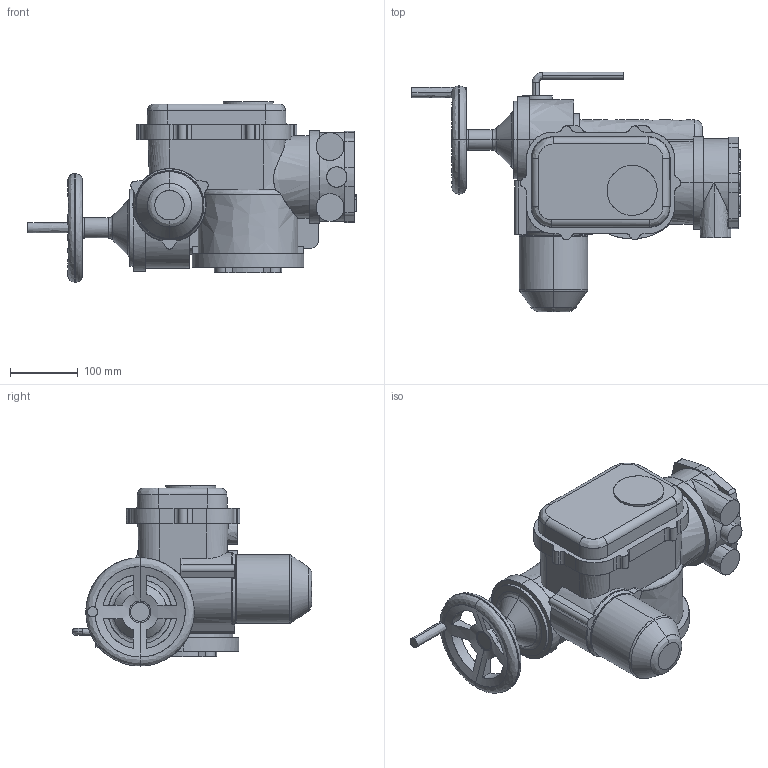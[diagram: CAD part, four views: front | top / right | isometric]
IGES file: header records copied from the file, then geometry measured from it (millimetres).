
Start section: Comment
Global section: file name: Q300SET+F10-1.igs; native system:  By Spatial Corp.; preprocessor: XPlus PS/IGES 3.0; author: Paul Exton; organization: Rotork Controls Ltd; date: 20030616.145055; units: millimetre
Bounding box: 484.6 x 353.51 x 265.8 mm (x, y, z)
Surface area: 456601 mm2 (no closed solid volume)
Topology: 0 solids, 0 shells, 386 faces, 2200 edges, 2192 vertices
Faces by surface type: bspline 386
